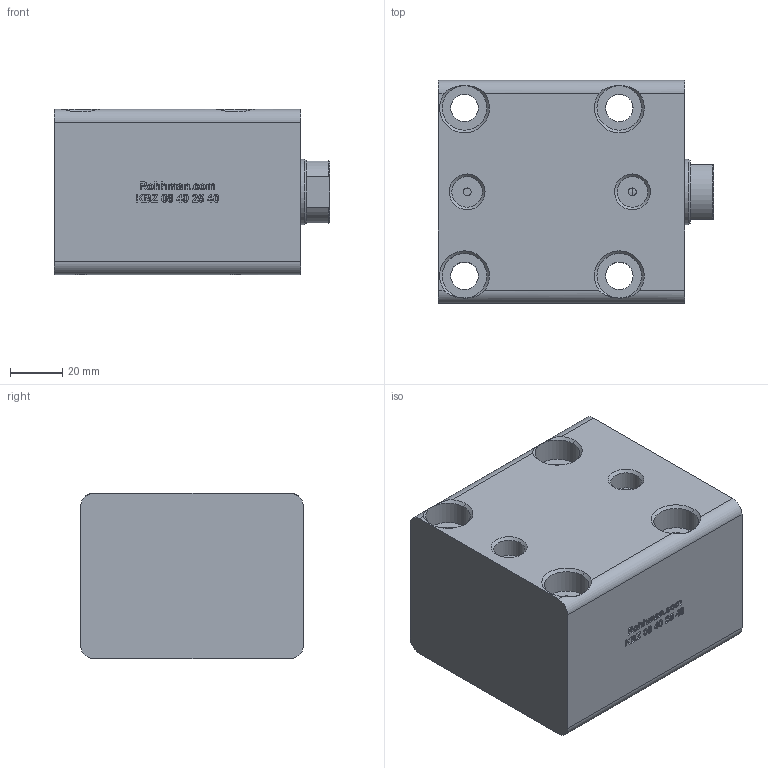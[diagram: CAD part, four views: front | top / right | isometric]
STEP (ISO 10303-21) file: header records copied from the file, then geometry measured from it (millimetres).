
FILE_DESCRIPTION(/* description */ (''),/* implementation_level */ '2;1');
FILE_NAME(/* name */ 'KBZ_08_40_25_40_WEB.step',/* time_stamp */ '2023-09-04T09:34:49+03:00',/* author */ (''),/* organization */ (''),/* preprocessor_version */ 'ST-DEVELOPER v20',/* originating_system */ 'Autodesk Translation Framework v12.9.0.99',/* authorisation */ '');
FILE_SCHEMA (('AUTOMOTIVE_DESIGN { 1 0 10303 214 3 1 1 }'));
Length unit declared in the file: millimetre
Products named in the file (6): KBZ_08_40_25_100_MONTAJ; KAPAK; KAPAK_1; GÖVDE; GÖVDE_1; Ø25 MİL
Assembly tree (5 placements, depth 3):
  KBZ_08_40_25_100_MONTAJ
    KAPAK
      KAPAK_1
    GÖVDE
      GÖVDE_1
    Ø25 MİL
Bounding box: 105 x 85 x 63 mm (x, y, z)
Volume: 429655.6 mm3; surface area: 69271.4 mm2
Topology: 3 solids, 3 shells, 566 faces, 1539 edges, 1018 vertices
Faces by surface type: bspline 315, plane 201, cylinder 28, cone 22
Full cylindrical faces by diameter (mm): 3 x4, 10.5 x4, 11.668 x2, 12.023 x1, 17 x4, 25 x1, 25.5 x1, 40 x1, 45 x2, 55 x2
Entity records: 21000 total; most frequent: CARTESIAN_POINT 8657, ORIENTED_EDGE 3078, EDGE_CURVE 1539, DIRECTION 1505, VERTEX_POINT 1018, LINE 801, VECTOR 801, B_SPLINE_CURVE_WITH_KNOTS 645
